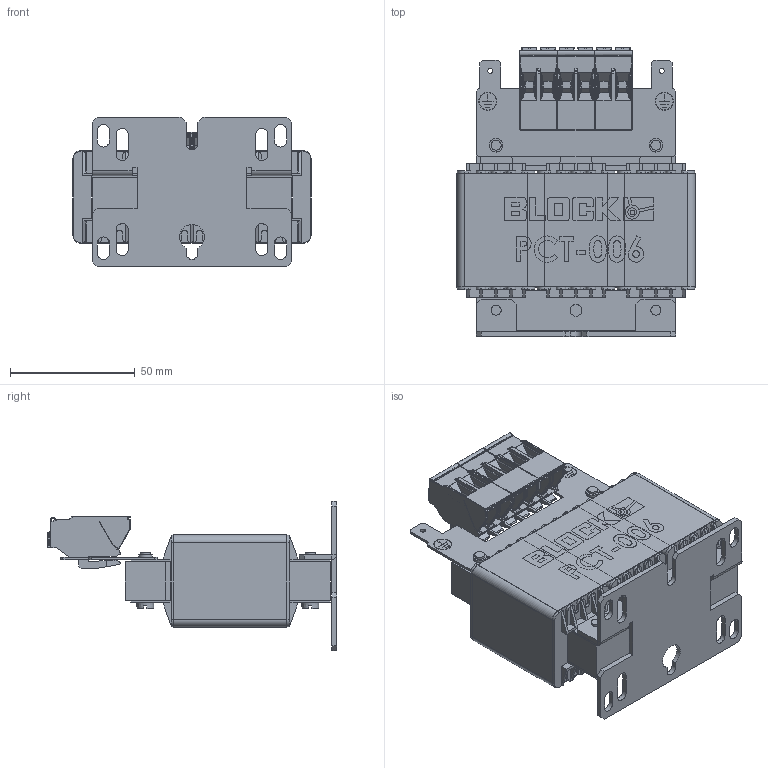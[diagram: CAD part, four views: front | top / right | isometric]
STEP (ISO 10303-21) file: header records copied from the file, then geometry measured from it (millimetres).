
FILE_DESCRIPTION (( 'STEP AP214' ), '1' );
FILE_NAME ('PCT-006.STEP', '2015-04-28T09:44:29', ( 'EDV' ), ( 'Microsoft' ), 'SwSTEP 2.0', 'SolidWorks 2014', '' );
FILE_SCHEMA (( 'AUTOMOTIVE_DESIGN' ));
Length unit declared in the file: millimetre
Products named in the file (10): UI48-17oD; #144-0145; BTK 4_2 +2202-0006; #080-0485; #040-0870; PCT-006; Wickelabdeckung LR3 40-3_6; slotted cheese head screw_din_ISO 1207 - M4 x 20 --- 20N; 3UI48-17_Luftspalt2,1mm; Wickel UI 48_17
Assembly tree (19 placements, depth 2):
  PCT-006
    #040-0870
    #080-0485
    BTK 4_2 +2202-0006  x3
    #144-0145  x2
    UI48-17oD  x3
    Wickel UI 48_17  x3
    3UI48-17_Luftspalt2,1mm
    slotted cheese head screw_din_ISO 1207 - M4 x 20 --- 20N  x4
    Wickelabdeckung LR3 40-3_6
Bounding box: 95.4 x 115.8 x 60 mm (x, y, z)
Volume: 232414.5 mm3; surface area: 161299.6 mm2
Topology: 21 solids, 21 shells, 6186 faces, 17341 edges, 11316 vertices
Faces by surface type: plane 5034, cylinder 815, bspline 282, torus 51, cone 4
Full cylindrical faces by diameter (mm): 2 x2, 3.473 x1, 3.7 x4, 4 x4, 4.5 x4, 4.8 x6, 5.4 x2, 6.95 x2, 7.15 x2
Entity records: 84584 total; most frequent: CARTESIAN_POINT 19699, ORIENTED_EDGE 13398, DIRECTION 11509, EDGE_CURVE 6699, LINE 5765, VECTOR 5765, VERTEX_POINT 4399, AXIS2_PLACEMENT_3D 2872
